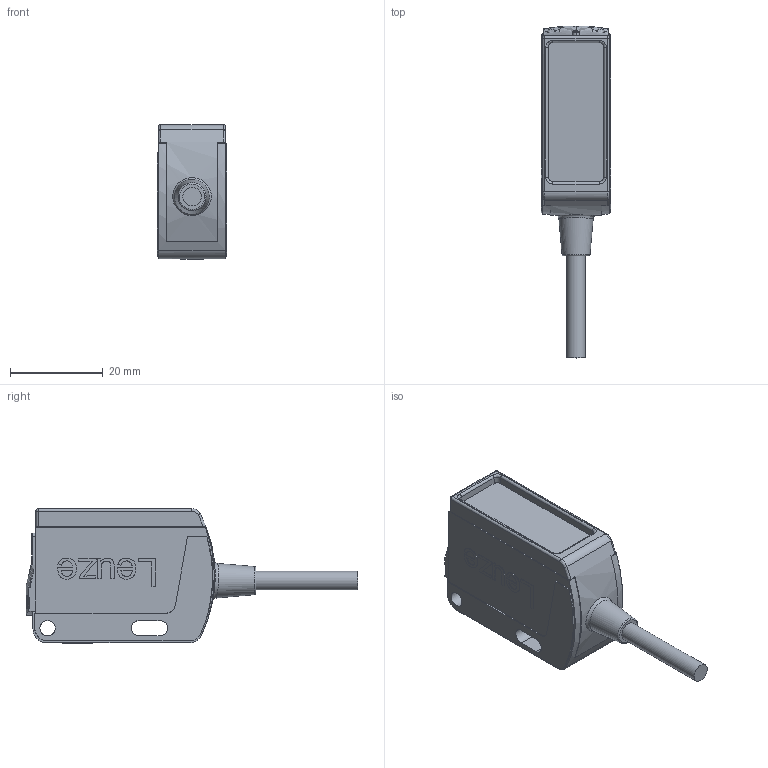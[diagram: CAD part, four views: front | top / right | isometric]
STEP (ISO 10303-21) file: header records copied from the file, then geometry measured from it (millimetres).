
FILE_DESCRIPTION((''),'2;1');
FILE_NAME('E:\temp\br25b_kab.stp','2006-10-23T11:24:38',('User'),( 'SDRC'),'I-DEAS Master Series 9','UNIX','Yes');
FILE_SCHEMA(('CONFIG_CONTROL_DESIGN', 'GEOMETRIC_VALIDATION_PROPERTIES_MIM','SHAPE_APPEARANCE_LAYER_MIM'));
Length unit declared in the file: millimetre
Bounding box: 15 x 71.55 x 29 mm (x, y, z)
Volume: 15377 mm3; surface area: 5286.3 mm2
Topology: 1 solids, 1 shells, 300 faces, 798 edges, 533 vertices
Faces by surface type: bspline 300
Entity records: 11383 total; most frequent: CARTESIAN_POINT 6493, ORIENTED_EDGE 1524, EDGE_CURVE 762, VERTEX_POINT 479, B_SPLINE_CURVE_WITH_KNOTS 421, OVER_RIDING_STYLED_ITEM 339, EDGE_LOOP 319, FACE_OUTER_BOUND 300
